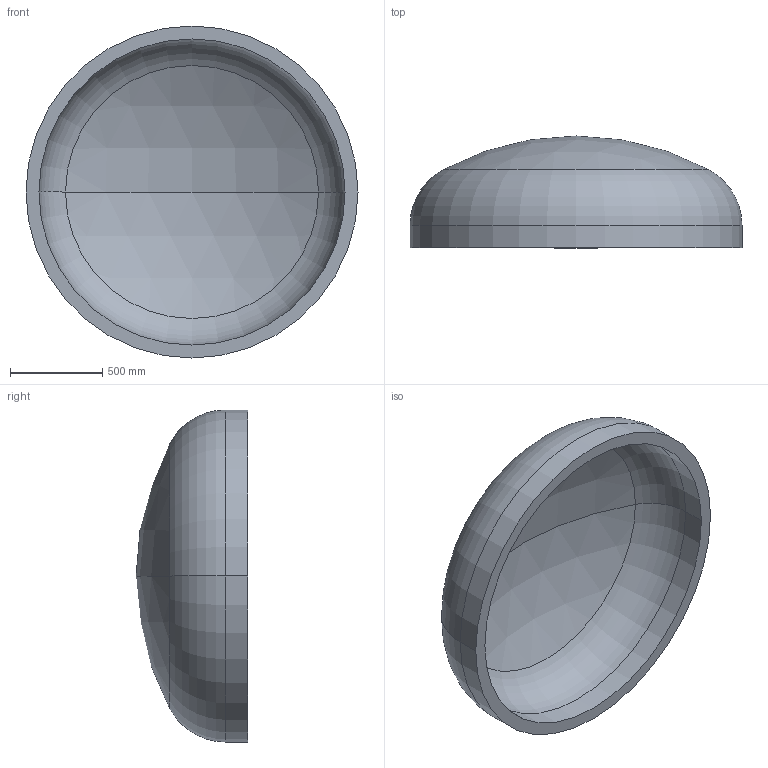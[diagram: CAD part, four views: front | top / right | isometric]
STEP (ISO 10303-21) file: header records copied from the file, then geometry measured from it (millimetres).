
FILE_DESCRIPTION (( 'STEP AP203' ), '1' );
FILE_NAME ('DIN 28013 Korbbogenform_-_Boden DIN 28013 - 1800 x 120 - I - s=70.step', '2016-07-01T12:38:09', ( '' ), ( '' ), 'SwSTEP 2.0', 'SolidWorks 2013', '' );
FILE_SCHEMA (( 'CONFIG_CONTROL_DESIGN' ));
Length unit declared in the file: millimetre
Products named in the file (1): DIN 28013 Korbbogenform_-_Boden DIN 28013 - 1800 x 120 - I - s=70
Bounding box: 1800 x 605.7 x 1800 mm (x, y, z)
Volume: 279847676.5 mm3; surface area: 8386355.1 mm2
Topology: 1 solids, 1 shells, 13 faces, 24 edges, 14 vertices
Faces by surface type: torus 4, cylinder 4, sphere 4, plane 1
Entity records: 407 total; most frequent: DIRECTION 72, CARTESIAN_POINT 52, ORIENTED_EDGE 48, AXIS2_PLACEMENT_3D 34, EDGE_CURVE 24, CIRCLE 20, VERTEX_POINT 14, EDGE_LOOP 14
